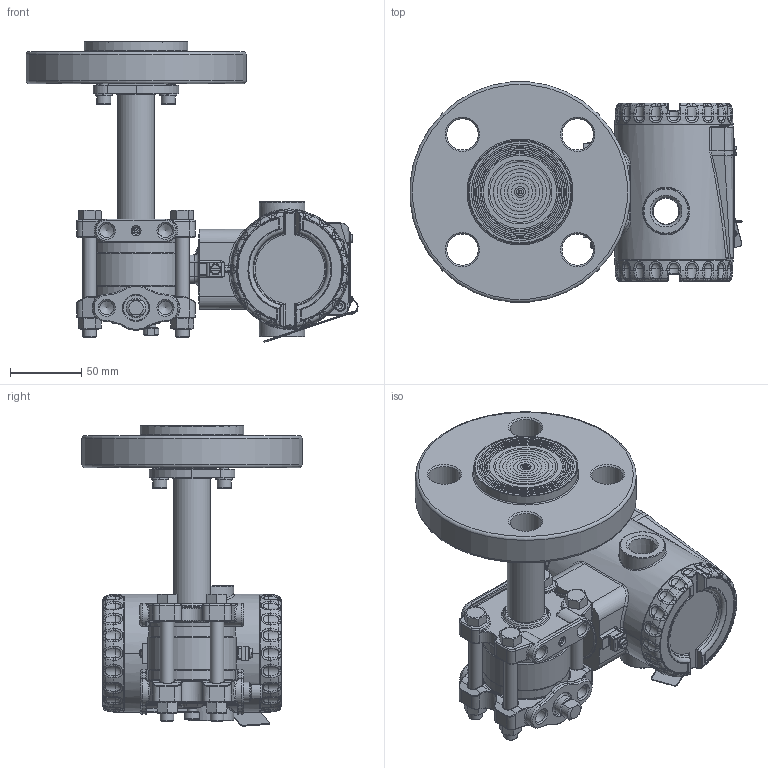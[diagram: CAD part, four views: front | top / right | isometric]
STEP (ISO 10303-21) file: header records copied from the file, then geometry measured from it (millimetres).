
FILE_DESCRIPTION(/* description */ (''),/* implementation_level */ '2;1');
FILE_NAME(/* name */ 'F:\Area\Desenvolvimento_2\Projects\Sensor\projetos\LD400-3d\dimensionais 3D clientes\LD400L\LD400L 1-1-2-600 RF ref 1-4NPT purga acima.stp',/* time_stamp */ '2023-02-23T15:10:03-03:00',/* author */ ('inventor02'),/* organization */ (''),/* preprocessor_version */ 'ST-DEVELOPER v17',/* originating_system */ 'Autodesk Inventor 2019',/* authorisation */ '');
FILE_SCHEMA (('CONFIG_CONTROL_DESIGN'));
Products named in the file (38): LD30XL 1-1-2-600 RF ref 1-4NPT purga acima; 204-0301-L-1-1-2 600 RF purga acima; nivel fx3 com baixa diferencial 1-4NPT purga acima; involucro fx0-3 apos a usinagem final; flange diferencial std purga; 101-C-7484-01 flange selo nivel VR; 201-A-0504-tubo união teste 1; bujao 1-4NPT; Sangria; Porca 3-8 x 16 UNC; Paraf. 3-8 x 16 UNC; adaptação tubo x flanges 1-1-2 a 4pol; 101-B-0161-anel cortado do tubo - teste1; 101-B-0162-flange fixação tubo; ANSI B18.3.1M - M6x1 x 16; DIN 127 - A 6; 101-C-0220-10; Carcaça 400 com tampas e plaqueta sem letras; 101-D-0845-05 carcaça LD400 sem letras; 101-B-3614-03-tampa 400 sem letras; Tampa visor 400 montada sem letras; 101-B-3612-05 tampa visor 400 sem letras; 101-A-6107; oring 2034; 00034775-0; WHW_250; DIN 915 - M6 x 10; Chapa aterramento externo; 201-A-1771-02 inserto terra recartilhado; AS 1969 - ST4,2; ISO 1207 - M4 x 8; ANSI B18.3.1M - M4x0,7 x 8; Subconjunto plaqueta 400; plaqueta 400 em branco; Parafuso da Plaqueta; Rebite da Plaqueta; 096-A-0169-03; 101-A-0502-01
Assembly tree (47 placements, depth 4):
  LD30XL 1-1-2-600 RF ref 1-4NPT purga acima
    204-0301-L-1-1-2 600 RF purga acima
      nivel fx3 com baixa diferencial 1-4NPT purga acima
        involucro fx0-3 apos a usinagem final
        flange diferencial std purga
        101-C-7484-01 flange selo nivel VR
        201-A-0504-tubo união teste 1
        DIN 915 - M6 x 10
        bujao 1-4NPT
        Sangria
        Porca 3-8 x 16 UNC  x4
        Paraf. 3-8 x 16 UNC  x4
      adaptação tubo x flanges 1-1-2 a 4pol
        101-B-0161-anel cortado do tubo - teste1
        101-B-0162-flange fixação tubo
        ANSI B18.3.1M - M6x1 x 16  x2
        DIN 127 - A 6  x2
      101-C-0220-10
    Carcaça 400 com tampas e plaqueta sem letras
      101-D-0845-05 carcaça LD400 sem letras
      101-B-3614-03-tampa 400 sem letras
      Tampa visor 400 montada sem letras
        101-B-3612-05 tampa visor 400 sem letras
        101-A-6107
        oring 2034
        00034775-0
        WHW_250
      DIN 915 - M6 x 10
      Chapa aterramento externo
      201-A-1771-02 inserto terra recartilhado
      AS 1969 - ST4,2
      ISO 1207 - M4 x 8
      ANSI B18.3.1M - M4x0,7 x 8  x2
      Subconjunto plaqueta 400
        plaqueta 400 em branco
        Parafuso da Plaqueta
        Rebite da Plaqueta
        096-A-0169-03
        101-A-0502-01
Bounding box: 232.96 x 154.41 x 210.72 mm (x, y, z)
Volume: 1042536.3 mm3; surface area: 313496.9 mm2
Topology: 41 solids, 41 shells, 2707 faces, 6578 edges, 3934 vertices
Faces by surface type: plane 703, cylinder 656, bspline 604, torus 452, cone 216, sphere 76
Full cylindrical faces by diameter (mm): 2 x4, 2.1 x1, 2.2 x1, 2.459 x3, 2.5 x1, 2.7 x1, 2.8 x1, 3 x4, 3.242 x3, 3.5 x1, 3.571 x1, 4 x5, 4.3 x2, 4.4 x1, 4.917 x4, 5 x1, 5.5 x3, 6 x6, 6.1 x2, 6.2 x1, 6.647 x1, 7 x5, 7.6 x2, 7.798 x4, 8 x1, 9.525 x4, 9.728 x6, 10 x2, 10.5 x8, 10.719 x2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
Entity records: 96785 total; most frequent: CARTESIAN_POINT 36775, ORIENTED_EDGE 12396, DIRECTION 12316, EDGE_CURVE 6198, AXIS2_PLACEMENT_3D 5254, VERTEX_POINT 3740, CIRCLE 3040, EDGE_LOOP 2724
